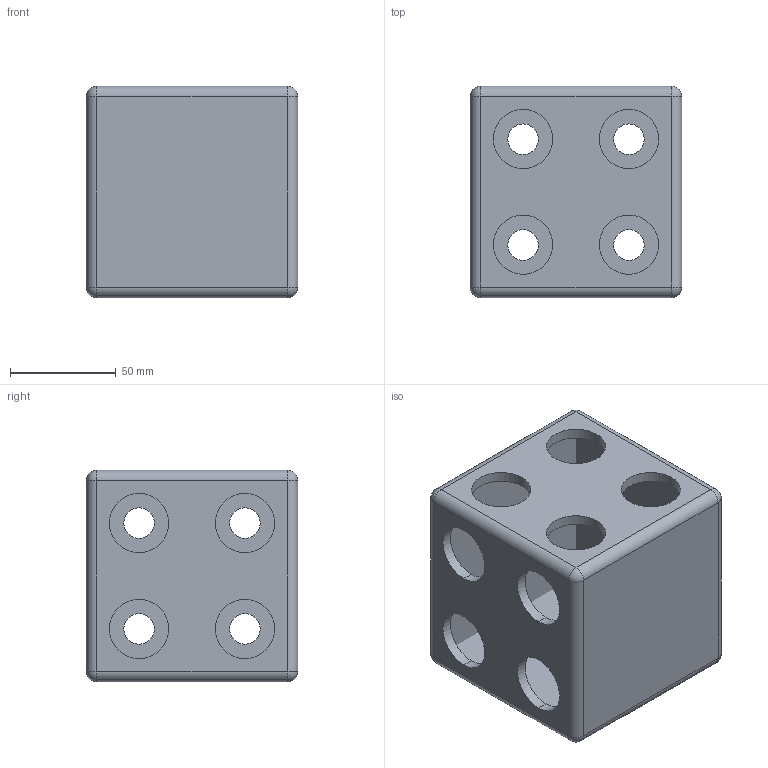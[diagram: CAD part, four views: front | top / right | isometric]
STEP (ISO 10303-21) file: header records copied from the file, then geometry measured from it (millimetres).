
FILE_DESCRIPTION (( 'STEP AP214' ), '1' );
FILE_NAME ('100100-2.STEP', '2020-06-24T12:07:18', ( '' ), ( '' ), 'SwSTEP 2.0', 'SolidWorks 2018', '' );
FILE_SCHEMA (( 'AUTOMOTIVE_DESIGN' ));
Length unit declared in the file: millimetre
Products named in the file (4): 100100-2.02; 100100-2.01; 100100-2; 100100-2.03
Assembly tree (6 placements, depth 2):
  100100-2
    100100-2.01  x2
    100100-2.02  x2
    100100-2.03  x2
Bounding box: 100 x 100 x 100 mm (x, y, z)
Volume: 248678.4 mm3; surface area: 117340 mm2
Topology: 6 solids, 6 shells, 96 faces, 252 edges, 144 vertices
Faces by surface type: cylinder 60, sphere 24, plane 12
Entity records: 1628 total; most frequent: DIRECTION 300, CARTESIAN_POINT 243, ORIENTED_EDGE 228, AXIS2_PLACEMENT_3D 129, EDGE_CURVE 114, CIRCLE 72, VERTEX_POINT 72, EDGE_LOOP 66
